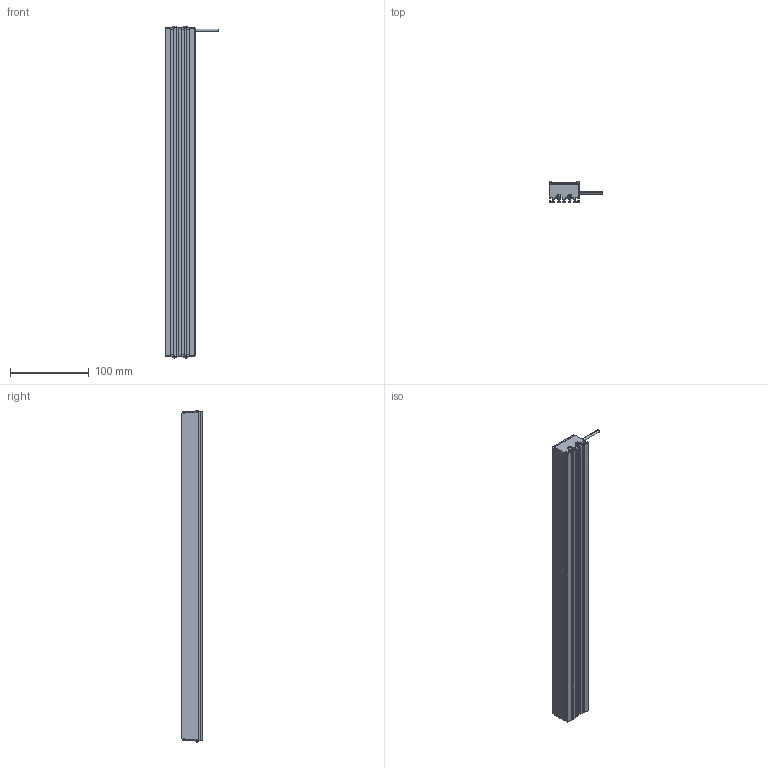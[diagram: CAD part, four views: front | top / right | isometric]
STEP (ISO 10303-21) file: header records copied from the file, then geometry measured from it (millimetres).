
FILE_DESCRIPTION((''),'2;1');
FILE_NAME('MV-LLDS-417-38_ASM','2020-12-30T',('Administrator'),(''),'PRO/ENGINEER BY PARAMETRIC TECHNOLOGY CORPORATION, 2010100','PRO/ENGINEER BY PARAMETRIC TECHNOLOGY CORPORATION, 2010100','');
FILE_SCHEMA(('CONFIG_CONTROL_DESIGN'));
Length unit declared in the file: millimetre
Products named in the file (3): BL-6_3_; M3-5_3; MV-LLDS-417-38_ASM
Assembly tree (5 placements, depth 2):
  MV-LLDS-417-38_ASM
    BL-6_3_
    M3-5_3  x4
Bounding box: 68 x 27 x 421.68 mm (x, y, z)
Volume: 348938.3 mm3; surface area: 101287.8 mm2
Topology: 5 solids, 13 shells, 349 faces, 934 edges, 604 vertices
Faces by surface type: plane 223, cylinder 78, cone 16, bspline 16, torus 8, sphere 8
Entity records: 8203 total; most frequent: CARTESIAN_POINT 1695, ORIENTED_EDGE 1338, DIRECTION 1310, EDGE_CURVE 679, VECTOR 514, LINE 514, VERTEX_POINT 445, AXIS2_PLACEMENT_3D 398
